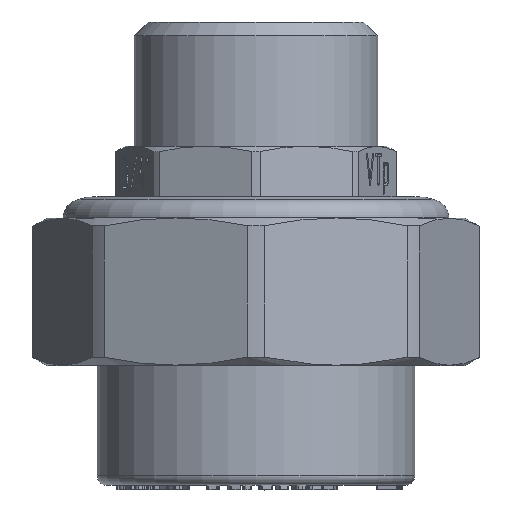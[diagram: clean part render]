
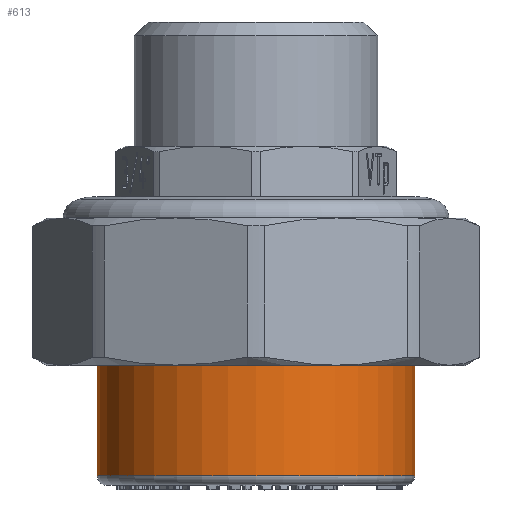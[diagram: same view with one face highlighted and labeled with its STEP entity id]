
A CAD part, top view. The second image highlights one B-rep face of the part: STEP entity #613.
In plain terms, the highlighted cylindrical face has radius 17.25 mm (diameter 34.5 mm), a full revolution.
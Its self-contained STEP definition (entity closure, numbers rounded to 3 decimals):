
#613=ADVANCED_FACE('',(#4443,#4445),#4447,.T.);
#4443=FACE_OUTER_BOUND('',#4444,.T.);
#4444=EDGE_LOOP('',(#10956));
#4445=FACE_OUTER_BOUND('',#4446,.T.);
#4446=EDGE_LOOP('',(#10957));
#4447=CYLINDRICAL_SURFACE('',#4448,17.25);
#4448=AXIS2_PLACEMENT_3D('',#4449,#4450,#4451);
#4449=CARTESIAN_POINT('',(0.,0.,0.));
#4450=DIRECTION('',(0.,1.,0.));
#4451=DIRECTION('',(-1.,0.,0.));
#10956=ORIENTED_EDGE('',*,*,#14950,.F.);
#10957=ORIENTED_EDGE('',*,*,#14947,.T.);
#14947=EDGE_CURVE('',#18426,#18426,#18427,.T.);
#14950=EDGE_CURVE('',#18431,#18431,#18432,.T.);
#18426=VERTEX_POINT('',#25558);
#18427=CIRCLE('',#25559,17.25);
#18431=VERTEX_POINT('',#25571);
#18432=CIRCLE('',#25572,17.25);
#25558=CARTESIAN_POINT('',(-17.25,1.,0.));
#25559=AXIS2_PLACEMENT_3D('',#25560,#25561,#25562);
#25560=CARTESIAN_POINT('',(0.,1.,0.));
#25561=DIRECTION('',(0.,1.,0.));
#25562=DIRECTION('',(-1.,0.,0.));
#25571=CARTESIAN_POINT('',(-17.25,16.5,0.));
#25572=AXIS2_PLACEMENT_3D('',#25573,#25574,#25575);
#25573=CARTESIAN_POINT('',(0.,16.5,0.));
#25574=DIRECTION('',(0.,1.,0.));
#25575=DIRECTION('',(-1.,0.,0.));
